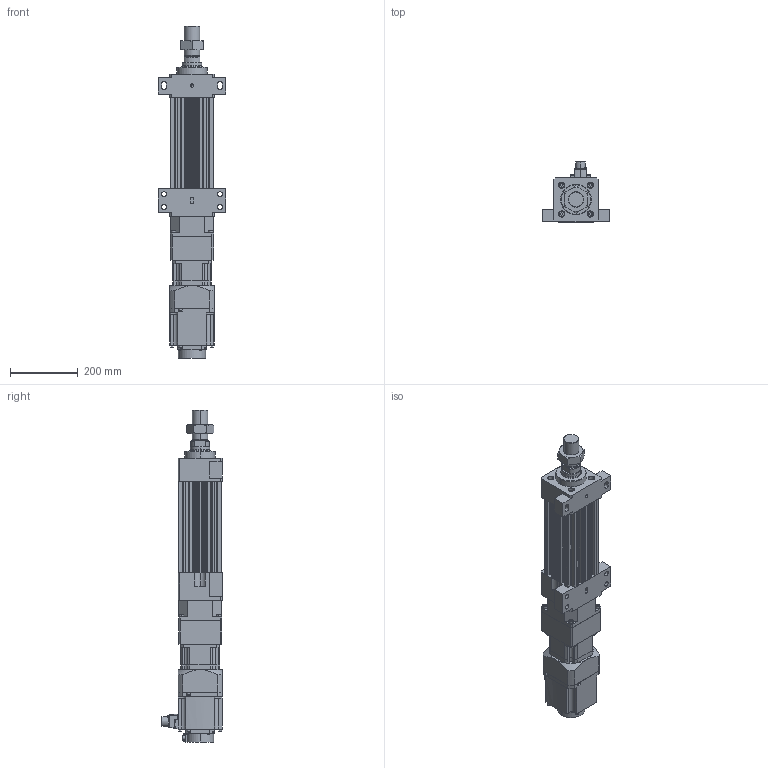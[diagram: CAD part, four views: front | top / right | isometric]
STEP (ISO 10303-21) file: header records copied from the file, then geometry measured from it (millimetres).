
FILE_DESCRIPTION (( 'STEP AP203' ), '1' );
FILE_NAME ('HES130NS(FS)(HS)-S050-W015G00-M-FFB.STEP', '2023-01-30T08:44:39', ( 'tms' ), ( '' ), 'SwSTEP 2.0', 'SolidWorks 2013', '' );
FILE_SCHEMA (( 'CONFIG_CONTROL_DESIGN' ));
Length unit declared in the file: millimetre
Products named in the file (8): AB1151; P0401400706; HES130NS(FS)(HS)-S050-W015G00-M-FFB; HES130 ROD M ST050; HES130-S050-G120-FFB; M45X1.5P; AB115-003[HG-SR152]; HG-SR152
Assembly tree (7 placements, depth 3):
  HES130NS(FS)(HS)-S050-W015G00-M-FFB
    HES130-S050-G120-FFB
    HES130 ROD M ST050
    M45X1.5P
    AB115-003[HG-SR152]
      AB1151
      P0401400706
    HG-SR152
Bounding box: 200 x 177.49 x 979.5 mm (x, y, z)
Volume: 7823312.5 mm3; surface area: 932825.7 mm2
Topology: 4 solids, 15 shells, 1211 faces, 3070 edges, 1998 vertices
Faces by surface type: plane 571, cylinder 546, cone 82, bspline 8, torus 4
Entity records: 38310 total; most frequent: CARTESIAN_POINT 7264, DIRECTION 6633, ORIENTED_EDGE 6092, EDGE_CURVE 3056, AXIS2_PLACEMENT_3D 2435, VERTEX_POINT 1998, LINE 1763, VECTOR 1763
